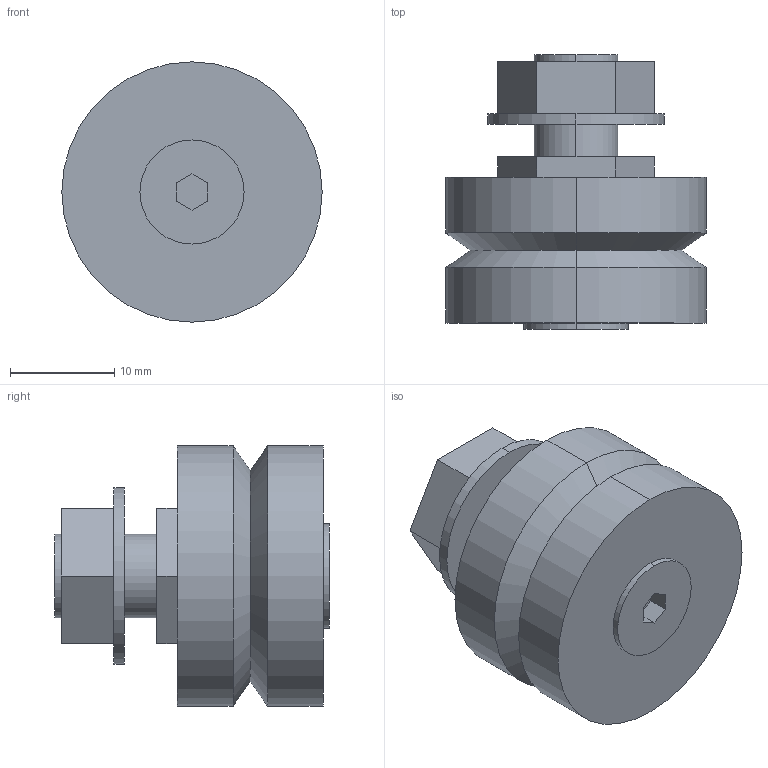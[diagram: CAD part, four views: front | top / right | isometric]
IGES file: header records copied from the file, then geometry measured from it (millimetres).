
Start section: 3D InterOp IGES (v. 2019 1.0.2), Spatial Corp. Copyright (c) 1999-2017.
Global section: file name: SJ 25 C.igs; native system: Spatial Corp.; preprocessor: 3D InterOp GENERIC/IGES 3.0; author: Noname; organization: Noname; date: 20220628.165356; units: millimetre
Bounding box: 25 x 26.4 x 25 mm (x, y, z)
Surface area: 3089 mm2 (no closed solid volume)
Topology: 0 solids, 0 shells, 43 faces, 192 edges, 192 vertices
Faces by surface type: extrusion 27, revolution 16
